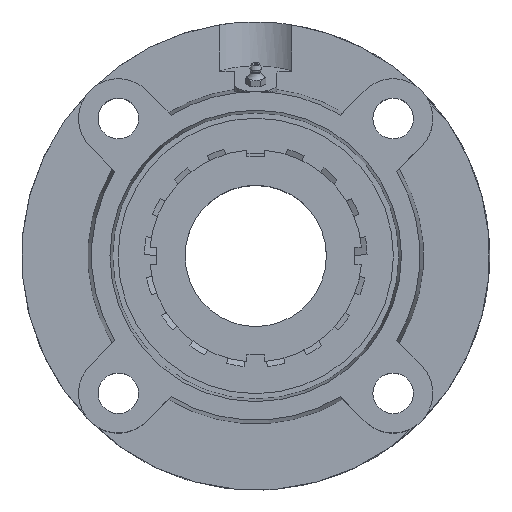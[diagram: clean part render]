
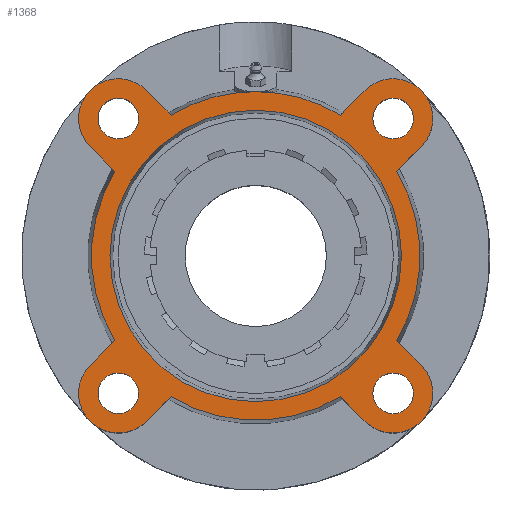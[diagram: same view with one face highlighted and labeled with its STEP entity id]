
A CAD part, top view. The second image highlights one B-rep face of the part: STEP entity #1368.
In plain terms, the highlighted planar face has unit normal (0, 0, 1).
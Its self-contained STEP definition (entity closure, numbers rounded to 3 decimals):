
#181=CARTESIAN_POINT('',(-66.282,-77.782,32.));
#182=VERTEX_POINT('',#181);
#183=CARTESIAN_POINT('',(-77.782,-77.782,32.));
#184=DIRECTION('',(0.0,0.0,-1.0));
#185=DIRECTION('',(1.0,0.0,0.0));
#186=AXIS2_PLACEMENT_3D('',#183,#184,#185);
#187=CIRCLE('',#186,11.5);
#188=EDGE_CURVE('',#182,#182,#187,.T.);
#209=CARTESIAN_POINT('',(-66.282,77.782,32.));
#210=VERTEX_POINT('',#209);
#211=CARTESIAN_POINT('',(-77.782,77.782,32.));
#212=DIRECTION('',(0.0,0.0,-1.0));
#213=DIRECTION('',(1.0,0.0,0.0));
#214=AXIS2_PLACEMENT_3D('',#211,#212,#213);
#215=CIRCLE('',#214,11.5);
#216=EDGE_CURVE('',#210,#210,#215,.T.);
#237=CARTESIAN_POINT('',(89.282,77.782,32.));
#238=VERTEX_POINT('',#237);
#239=CARTESIAN_POINT('',(77.782,77.782,32.));
#240=DIRECTION('',(0.0,0.0,-1.0));
#241=DIRECTION('',(1.0,0.0,0.0));
#242=AXIS2_PLACEMENT_3D('',#239,#240,#241);
#243=CIRCLE('',#242,11.5);
#244=EDGE_CURVE('',#238,#238,#243,.T.);
#265=CARTESIAN_POINT('',(89.282,-77.782,32.));
#266=VERTEX_POINT('',#265);
#267=CARTESIAN_POINT('',(77.782,-77.782,32.));
#268=DIRECTION('',(0.0,0.0,-1.0));
#269=DIRECTION('',(1.0,0.0,0.0));
#270=AXIS2_PLACEMENT_3D('',#267,#268,#269);
#271=CIRCLE('',#270,11.5);
#272=EDGE_CURVE('',#266,#266,#271,.T.);
#373=CARTESIAN_POINT('',(0.0,82.5,32.));
#374=VERTEX_POINT('',#373);
#375=CARTESIAN_POINT('',(0.0,0.,32.0));
#376=DIRECTION('',(0.0,0.0,-1.0));
#377=DIRECTION('',(0.0,1.0,0.0));
#378=AXIS2_PLACEMENT_3D('',#375,#376,#377);
#379=CIRCLE('',#378,82.5);
#380=EDGE_CURVE('',#374,#374,#379,.T.);
#666=CARTESIAN_POINT('',(0.,93.0,32.0));
#667=VERTEX_POINT('',#666);
#824=CARTESIAN_POINT('',(-47.897,79.717,32.));
#825=VERTEX_POINT('',#824);
#839=CARTESIAN_POINT('',(0.0,0.,32.0));
#840=DIRECTION('',(0.0,0.0,1.0));
#841=DIRECTION('',(0.0,-1.0,0.0));
#842=AXIS2_PLACEMENT_3D('',#839,#840,#841);
#843=CIRCLE('',#842,93.0);
#844=EDGE_CURVE('',#667,#825,#843,.T.);
#854=CARTESIAN_POINT('',(-47.897,-79.717,32.));
#855=VERTEX_POINT('',#854);
#871=CARTESIAN_POINT('',(-61.872,-93.692,32.));
#872=VERTEX_POINT('',#871);
#873=CARTESIAN_POINT('',(-47.897,-79.717,32.));
#874=DIRECTION('',(-0.707,-0.707,0.));
#875=VECTOR('',#874,19.763);
#876=LINE('',#873,#875);
#877=EDGE_CURVE('',#855,#872,#876,.T.);
#901=CARTESIAN_POINT('',(-79.717,47.897,32.));
#902=VERTEX_POINT('',#901);
#918=CARTESIAN_POINT('',(-93.692,61.872,32.));
#919=VERTEX_POINT('',#918);
#920=CARTESIAN_POINT('',(-79.717,47.897,32.));
#921=DIRECTION('',(-0.707,0.707,0.));
#922=VECTOR('',#921,19.763);
#923=LINE('',#920,#922);
#924=EDGE_CURVE('',#902,#919,#923,.T.);
#948=CARTESIAN_POINT('',(79.717,-47.897,32.));
#949=VERTEX_POINT('',#948);
#965=CARTESIAN_POINT('',(93.692,-61.872,32.));
#966=VERTEX_POINT('',#965);
#967=CARTESIAN_POINT('',(79.717,-47.897,32.));
#968=DIRECTION('',(0.707,-0.707,0.));
#969=VECTOR('',#968,19.763);
#970=LINE('',#967,#969);
#971=EDGE_CURVE('',#949,#966,#970,.T.);
#995=CARTESIAN_POINT('',(47.897,79.717,32.));
#996=VERTEX_POINT('',#995);
#1010=CARTESIAN_POINT('',(61.872,93.692,32.));
#1011=VERTEX_POINT('',#1010);
#1012=CARTESIAN_POINT('',(47.897,79.717,32.));
#1013=DIRECTION('',(0.707,0.707,0.));
#1014=VECTOR('',#1013,19.763);
#1015=LINE('',#1012,#1014);
#1016=EDGE_CURVE('',#996,#1011,#1015,.T.);
#1035=CARTESIAN_POINT('',(79.717,47.897,32.));
#1036=VERTEX_POINT('',#1035);
#1058=CARTESIAN_POINT('',(93.692,61.872,32.));
#1059=VERTEX_POINT('',#1058);
#1066=CARTESIAN_POINT('',(93.692,61.872,32.));
#1067=DIRECTION('',(-0.707,-0.707,0.));
#1068=VECTOR('',#1067,19.763);
#1069=LINE('',#1066,#1068);
#1070=EDGE_CURVE('',#1059,#1036,#1069,.T.);
#1080=CARTESIAN_POINT('',(-93.692,-61.872,32.));
#1081=VERTEX_POINT('',#1080);
#1082=CARTESIAN_POINT('',(-77.782,-77.782,32.));
#1083=DIRECTION('',(0.0,0.0,-1.0));
#1084=DIRECTION('',(-0.707,0.707,0.0));
#1085=AXIS2_PLACEMENT_3D('',#1082,#1083,#1084);
#1086=CIRCLE('',#1085,22.5);
#1087=EDGE_CURVE('',#872,#1081,#1086,.T.);
#1122=CARTESIAN_POINT('',(-79.717,-47.897,32.));
#1123=VERTEX_POINT('',#1122);
#1144=CARTESIAN_POINT('',(-93.692,-61.872,32.));
#1145=DIRECTION('',(0.707,0.707,0.));
#1146=VECTOR('',#1145,19.763);
#1147=LINE('',#1144,#1146);
#1148=EDGE_CURVE('',#1081,#1123,#1147,.T.);
#1158=CARTESIAN_POINT('',(-61.872,93.692,32.));
#1159=VERTEX_POINT('',#1158);
#1160=CARTESIAN_POINT('',(-77.782,77.782,32.));
#1161=DIRECTION('',(0.0,0.0,-1.0));
#1162=DIRECTION('',(0.707,0.707,0.0));
#1163=AXIS2_PLACEMENT_3D('',#1160,#1161,#1162);
#1164=CIRCLE('',#1163,22.5);
#1165=EDGE_CURVE('',#919,#1159,#1164,.T.);
#1193=CARTESIAN_POINT('',(-61.872,93.692,32.));
#1194=DIRECTION('',(0.707,-0.707,0.));
#1195=VECTOR('',#1194,19.763);
#1196=LINE('',#1193,#1195);
#1197=EDGE_CURVE('',#1159,#825,#1196,.T.);
#1207=CARTESIAN_POINT('',(61.872,-93.692,32.));
#1208=VERTEX_POINT('',#1207);
#1209=CARTESIAN_POINT('',(77.782,-77.782,32.));
#1210=DIRECTION('',(0.0,0.0,-1.0));
#1211=DIRECTION('',(-0.707,-0.707,0.0));
#1212=AXIS2_PLACEMENT_3D('',#1209,#1210,#1211);
#1213=CIRCLE('',#1212,22.5);
#1214=EDGE_CURVE('',#966,#1208,#1213,.T.);
#1249=CARTESIAN_POINT('',(47.897,-79.717,32.));
#1250=VERTEX_POINT('',#1249);
#1271=CARTESIAN_POINT('',(61.872,-93.692,32.));
#1272=DIRECTION('',(-0.707,0.707,0.));
#1273=VECTOR('',#1272,19.763);
#1274=LINE('',#1271,#1273);
#1275=EDGE_CURVE('',#1208,#1250,#1274,.T.);
#1285=CARTESIAN_POINT('',(77.782,77.782,32.));
#1286=DIRECTION('',(0.0,0.0,-1.0));
#1287=DIRECTION('',(0.707,-0.707,0.0));
#1288=AXIS2_PLACEMENT_3D('',#1285,#1286,#1287);
#1289=CIRCLE('',#1288,22.5);
#1290=EDGE_CURVE('',#1011,#1059,#1289,.T.);
#1305=CARTESIAN_POINT('',(0.0,-46.5,32.));
#1306=DIRECTION('',(0.0,0.0,1.0));
#1307=DIRECTION('',(1.0,0.0,0.0));
#1308=AXIS2_PLACEMENT_3D('',#1305,#1306,#1307);
#1309=PLANE('',#1308);
#1310=CARTESIAN_POINT('',(0.0,0.,32.0));
#1311=DIRECTION('',(0.0,0.0,1.0));
#1312=DIRECTION('',(0.0,-1.0,0.0));
#1313=AXIS2_PLACEMENT_3D('',#1310,#1311,#1312);
#1314=CIRCLE('',#1313,93.0);
#1315=EDGE_CURVE('',#855,#1250,#1314,.T.);
#1316=ORIENTED_EDGE('',*,*,#1315,.T.);
#1317=ORIENTED_EDGE('',*,*,#1275,.F.);
#1318=ORIENTED_EDGE('',*,*,#1214,.F.);
#1319=ORIENTED_EDGE('',*,*,#971,.F.);
#1320=CARTESIAN_POINT('',(0.0,0.,32.0));
#1321=DIRECTION('',(0.0,0.0,1.0));
#1322=DIRECTION('',(0.0,-1.0,0.0));
#1323=AXIS2_PLACEMENT_3D('',#1320,#1321,#1322);
#1324=CIRCLE('',#1323,93.0);
#1325=EDGE_CURVE('',#949,#1036,#1324,.T.);
#1326=ORIENTED_EDGE('',*,*,#1325,.T.);
#1327=ORIENTED_EDGE('',*,*,#1070,.F.);
#1328=ORIENTED_EDGE('',*,*,#1290,.F.);
#1329=ORIENTED_EDGE('',*,*,#1016,.F.);
#1330=CARTESIAN_POINT('',(0.0,0.,32.0));
#1331=DIRECTION('',(0.0,0.0,1.0));
#1332=DIRECTION('',(0.0,-1.0,0.0));
#1333=AXIS2_PLACEMENT_3D('',#1330,#1331,#1332);
#1334=CIRCLE('',#1333,93.0);
#1335=EDGE_CURVE('',#996,#667,#1334,.T.);
#1336=ORIENTED_EDGE('',*,*,#1335,.T.);
#1337=ORIENTED_EDGE('',*,*,#844,.T.);
#1338=ORIENTED_EDGE('',*,*,#1197,.F.);
#1339=ORIENTED_EDGE('',*,*,#1165,.F.);
#1340=ORIENTED_EDGE('',*,*,#924,.F.);
#1341=CARTESIAN_POINT('',(0.0,0.,32.0));
#1342=DIRECTION('',(0.0,0.0,1.0));
#1343=DIRECTION('',(0.0,-1.0,0.0));
#1344=AXIS2_PLACEMENT_3D('',#1341,#1342,#1343);
#1345=CIRCLE('',#1344,93.0);
#1346=EDGE_CURVE('',#902,#1123,#1345,.T.);
#1347=ORIENTED_EDGE('',*,*,#1346,.T.);
#1348=ORIENTED_EDGE('',*,*,#1148,.F.);
#1349=ORIENTED_EDGE('',*,*,#1087,.F.);
#1350=ORIENTED_EDGE('',*,*,#877,.F.);
#1351=EDGE_LOOP('',(#1316,#1317,#1318,#1319,#1326,#1327,#1328,#1329,#1336,#1337,#1338,#1339,#1340,#1347,#1348,#1349,#1350));
#1352=FACE_OUTER_BOUND('',#1351,.T.);
#1353=ORIENTED_EDGE('',*,*,#188,.T.);
#1354=EDGE_LOOP('',(#1353));
#1355=FACE_BOUND('',#1354,.T.);
#1356=ORIENTED_EDGE('',*,*,#216,.T.);
#1357=EDGE_LOOP('',(#1356));
#1358=FACE_BOUND('',#1357,.T.);
#1359=ORIENTED_EDGE('',*,*,#244,.T.);
#1360=EDGE_LOOP('',(#1359));
#1361=FACE_BOUND('',#1360,.T.);
#1362=ORIENTED_EDGE('',*,*,#272,.T.);
#1363=EDGE_LOOP('',(#1362));
#1364=FACE_BOUND('',#1363,.T.);
#1365=ORIENTED_EDGE('',*,*,#380,.T.);
#1366=EDGE_LOOP('',(#1365));
#1367=FACE_BOUND('',#1366,.T.);
#1368=ADVANCED_FACE('',(#1352,#1355,#1358,#1361,#1364,#1367),#1309,.T.);
